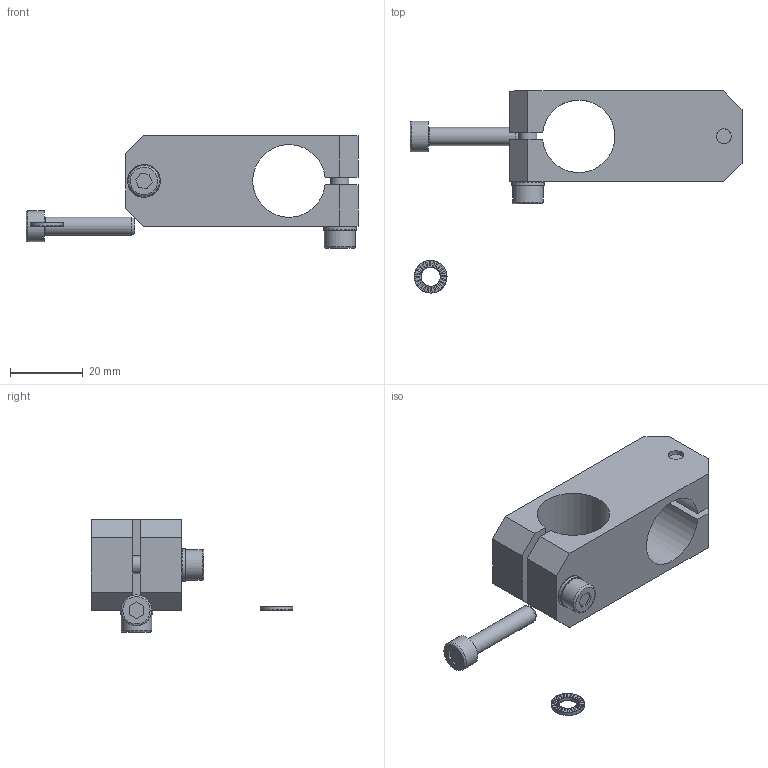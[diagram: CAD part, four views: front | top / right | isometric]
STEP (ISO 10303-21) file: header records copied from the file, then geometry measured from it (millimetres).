
FILE_DESCRIPTION( ( 'STEP AP214' ), '1' );
FILE_NAME( 'C:/Users/Segreteria/Desktop/CA.KKS.20.20.stp', '2014-07-18T06:34:21', ( ' ' ), ( ' ' ), 'XStep 1.0', ' ', ' ' );
FILE_SCHEMA( ( 'CONFIG_CONTROL_DESIGN) ( )' ) );
Length unit declared in the file: metre
Products named in the file (6): Assem1; R.5.SCH; KKS.20.20; V-tcei M  5 x 25
Bounding box: 91.5 x 55.64 x 31.1 mm (x, y, z)
Volume: 45941.5 mm3; surface area: 23589.8 mm2
Topology: 6 solids, 10 shells, 888 faces, 2592 edges, 1720 vertices
Faces by surface type: plane 848, cylinder 28, torus 8, cone 4
Full cylindrical faces by diameter (mm): 4.134 x4, 5 x4, 5.2 x4, 5.3 x4, 8.5 x4, 9 x4
Entity records: 14955 total; most frequent: DIRECTION 2580, CARTESIAN_POINT 2574, ORIENTED_EDGE 2540, EDGE_CURVE 1270, AXIS2_PLACEMENT_3D 860, LINE 860, VECTOR 860, VERTEX_POINT 854
